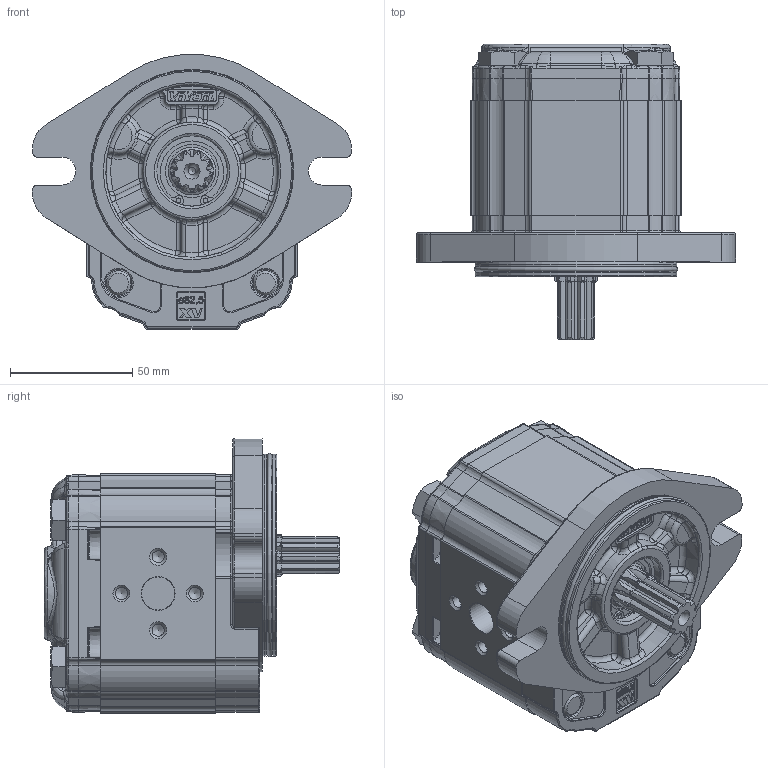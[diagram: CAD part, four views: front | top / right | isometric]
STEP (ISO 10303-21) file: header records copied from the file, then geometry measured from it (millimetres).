
FILE_DESCRIPTION(/* description */ ('Unknown'),/* implementation_level */ '2;1');
FILE_NAME(/* name */ 'X2P4151IOOA',/* time_stamp */ '2020-09-21T09:14:23+02:00',/* author */ ('Unknown'),/* organization */ ('Unknown'),/* preprocessor_version */ 'ST-DEVELOPER v16.7',/* originating_system */ 'DEX',/* authorisation */ $);
FILE_SCHEMA (('AP242_MANAGED_MODEL_BASED_3D_ENGINEERING_MIM_LF { 1 0 10303 442 1 1 4 }','AUTOMOTIVE_DESIGN {1 0 10303 214 3 1 1}'));
Products named in the file (5): X2P4151IOOA; X2P51; 2I; X2OOH47; XP219-A
Assembly tree (4 placements, depth 2):
  X2P4151IOOA
    X2P51
    2I
    X2OOH47
    XP219-A
Bounding box: 130.38 x 120.7 x 112.3 mm (x, y, z)
Volume: 660119.9 mm3; surface area: 110241.7 mm2
Topology: 4 solids, 5 shells, 2223 faces, 5483 edges, 3330 vertices
Faces by surface type: cylinder 661, plane 591, bspline 570, torus 247, cone 116, sphere 38
Full cylindrical faces by diameter (mm): 2 x2, 4.917 x4, 5 x4, 10 x4, 10.5 x4, 11 x2, 11.5 x4, 13.5 x2, 16 x4, 17.42 x1, 17.48 x2, 18.724 x1, 20.595 x1, 21.741 x1, 25.834 x1, 28.56 x1, 28.57 x1, 28.8 x1, 30.4 x1, 79.6 x2, 82.5 x2
Entity records: 101724 total; most frequent: CARTESIAN_POINT 39174, ORIENTED_EDGE 10532, DIRECTION 8859, EDGE_CURVE 5266, AXIS2_PLACEMENT_3D 3383, VERTEX_POINT 3266, FACE_BOUND 2446, EDGE_LOOP 2436
